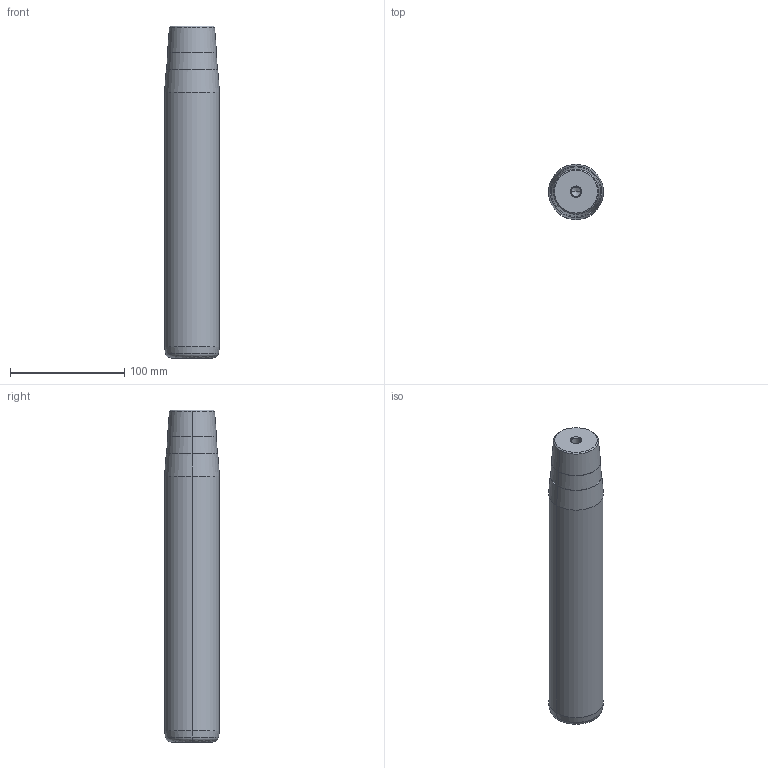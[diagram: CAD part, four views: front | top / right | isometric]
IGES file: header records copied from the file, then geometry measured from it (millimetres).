
Start section: START RECORD GO HERE.
Global section: file name: 722-48x250x290.igs; native system: DASSAULT SYSTEMES CATIA V5 R20 - www.3ds.com; preprocessor: CATIA Version 5 Release 20 ; author: Utente; organization: NB04-ASUS; date: 20210108.160138; units: millimetre
Bounding box: 48 x 48 x 290 mm (x, y, z)
Surface area: 46865.8 mm2 (no closed solid volume)
Topology: 0 solids, 0 shells, 32 faces, 128 edges, 124 vertices
Faces by surface type: revolution 30, plane 2
